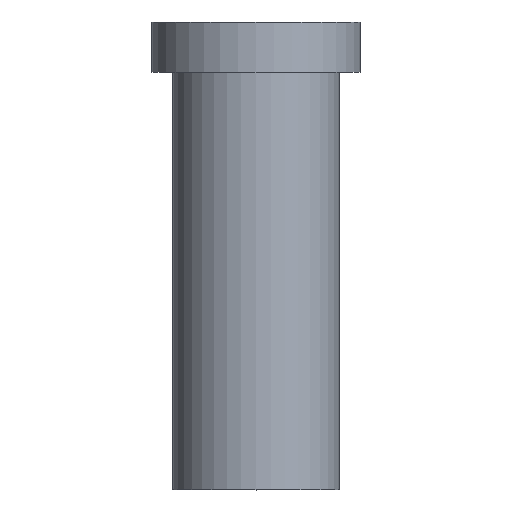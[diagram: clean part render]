
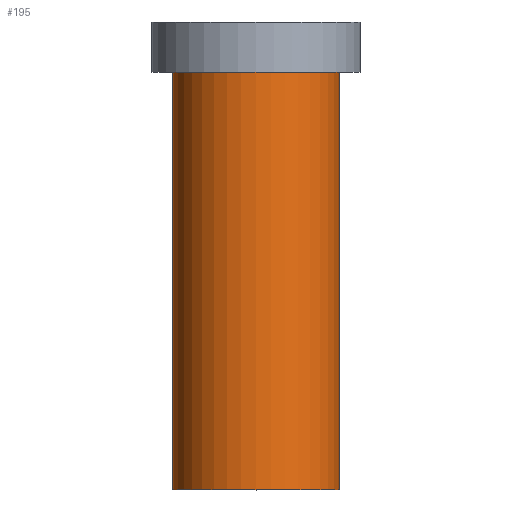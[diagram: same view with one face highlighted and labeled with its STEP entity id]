
A CAD part, top view. The second image highlights one B-rep face of the part: STEP entity #195.
In plain terms, the highlighted cylindrical face has radius 10 mm (diameter 20 mm), a full revolution.
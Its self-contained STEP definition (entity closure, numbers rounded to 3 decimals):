
#32=ORIENTED_EDGE('',*,*,#50,.T.);
#33=ORIENTED_EDGE('',*,*,#49,.F.);
#49=EDGE_CURVE('',#59,#59,#69,.T.);
#50=EDGE_CURVE('',#60,#60,#70,.T.);
#59=VERTEX_POINT('',#280);
#60=VERTEX_POINT('',#283);
#69=CIRCLE('',#213,10.);
#70=CIRCLE('',#215,10.);
#82=EDGE_LOOP('',(#32));
#83=EDGE_LOOP('',(#33));
#102=FACE_BOUND('',#82,.T.);
#103=FACE_BOUND('',#83,.T.);
#117=CYLINDRICAL_SURFACE('',#214,10.);
#195=ADVANCED_FACE('',(#102,#103),#117,.T.);
#213=AXIS2_PLACEMENT_3D('',#279,#241,#242);
#214=AXIS2_PLACEMENT_3D('',#281,#243,#244);
#215=AXIS2_PLACEMENT_3D('',#282,#245,#246);
#241=DIRECTION('',(0.,-1.,0.));
#242=DIRECTION('',(0.,0.,-1.));
#243=DIRECTION('',(0.,-1.,0.));
#244=DIRECTION('',(0.,0.,-1.));
#245=DIRECTION('',(0.,-1.,0.));
#246=DIRECTION('',(0.,0.,-1.));
#279=CARTESIAN_POINT('',(0.,0.,0.));
#280=CARTESIAN_POINT('',(0.,0.,-10.));
#281=CARTESIAN_POINT('',(0.,0.,0.));
#282=CARTESIAN_POINT('',(0.,50.,0.));
#283=CARTESIAN_POINT('',(0.,50.,-10.));
